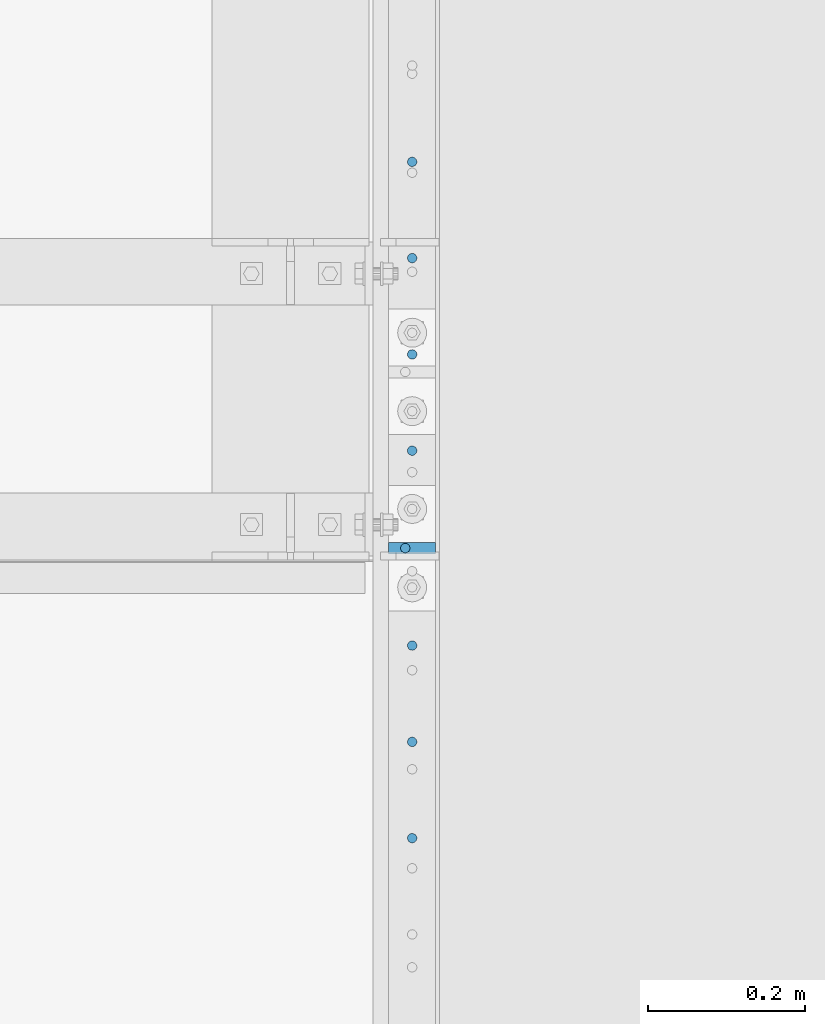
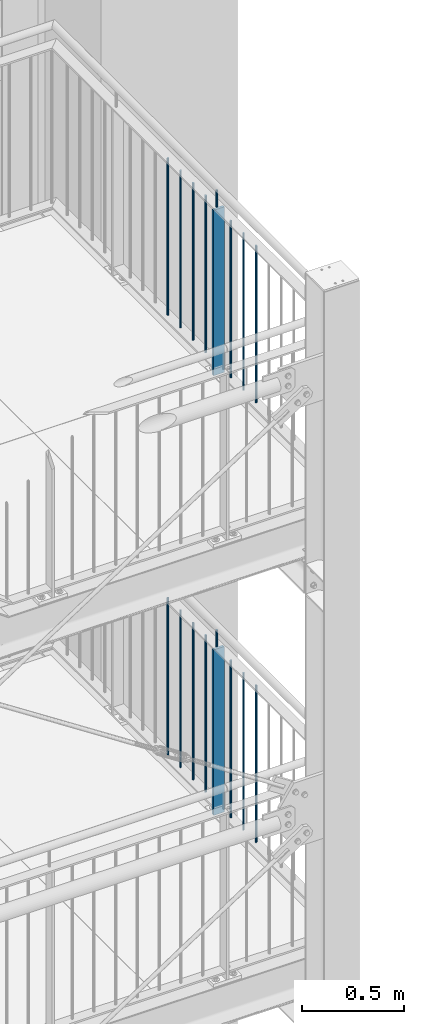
# One storey, part 99 of 825: 18 columns.
"""IFC2X3 building model written with IfcOpenShell, lengths in millimetres."""

from ifc_helpers import new_model, entity, si_unit, converted_unit, frame, origin, origin_with_axes, origin_2d, place, context, project, spatial, rectangle, circle, extrude, clip, halfspace, material, element, save


model = new_model("IFC2X3")

# Units and contexts
model_context = context("Model", 3, precision=1e-09, world=origin_with_axes())
ifc_project = project(units=[si_unit("LENGTHUNIT", "METRE", prefix="MILLI"), si_unit("AREAUNIT", "SQUARE_METRE"), si_unit("VOLUMEUNIT", "CUBIC_METRE"), converted_unit("PLANEANGLEUNIT", "DEGREE", entity("IfcPlaneAngleMeasure", 0.01745329), si_unit("PLANEANGLEUNIT", "RADIAN"), dimensions=[0, 0, 0, 0, 0, 0, 0])], contexts=[model_context])

# Site, building, storey
site_placement = place(None, origin_with_axes())
site = spatial("IfcSite", under=ifc_project, at=site_placement, Name="Cnopf'sche Kinderklinik", CompositionType="ELEMENT")
building_placement = place(site_placement, origin_with_axes())
building = spatial("IfcBuilding", under=site, at=building_placement, Name="Struktur 1", CompositionType="ELEMENT")
storey_placement = place(building_placement, origin_with_axes())
storey = spatial("IfcBuildingStorey", under=building, at=storey_placement, Name="Default Storey", CompositionType="ELEMENT", Elevation=0.0)

# Columns
ifc_material = material(Name="S235JR")
column_1_placement = place(None, frame((9021.713402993, 5751.73611476, 14936.223292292), z_axis=(0.0, 0.0, 1.0), x_axis=(0.0, -1.0, 0.0)))
element("IfcColumn", 1, at=column_1_placement, inside=storey, material=ifc_material, Name="Railing_Post_Landing#6", ObjectType="Railing_Post_Landing#6", context=model_context, shape_type="Clipping", body=[
    clip(clip(extrude(rectangle(XDim=15.0, YDim=60.0, at=origin_2d()), origin(), (0.0, 0.0, -1.0), 1070.646584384), halfspace(frame((5751.73611476, -9021.713402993, -1019.722292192), z_axis=(0.0, 0.0, 1.0), x_axis=(0.0, 1.0, 0.0)), True)), halfspace(frame((5751.73611476, -9021.713402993, -30.924292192), z_axis=(0.0, 0.0, -1.0), x_axis=(0.0, -1.0, 0.0)), True)),
])
column_2_placement = place(None, frame((9021.713402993, 6244.236186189, 14918.785281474), z_axis=(0.0, 0.0, 1.0), x_axis=(0.0, -1.0, 0.0)))
element("IfcColumn", 2, at=column_2_placement, inside=storey, material=ifc_material, Name="Railing_Picket_Landing#38", ObjectType="Railing_Picket_Landing#38", context=model_context, shape_type="Clipping", body=[
    clip(clip(extrude(circle(Radius=6.0, at=origin_2d()), origin(), (0.0, 0.0, -1.0), 965.770562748), halfspace(frame((6244.236186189, -9021.713402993, -13.486281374), z_axis=(0.0, 0.0, -1.0), x_axis=(0.0, -1.0, 0.0)), True)), halfspace(frame((6244.236186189, -9021.713402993, -952.284281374), z_axis=(0.0, 0.0, 1.0), x_axis=(0.0, 1.0, 0.0)), True)),
])
column_3_placement = place(None, frame((9021.713402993, 6121.48616238, 14918.785281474), z_axis=(0.0, 0.0, 1.0), x_axis=(0.0, -1.0, 0.0)))
element("IfcColumn", 3, at=column_3_placement, inside=storey, material=ifc_material, Name="Railing_Picket_Landing#39", ObjectType="Railing_Picket_Landing#39", context=model_context, shape_type="Clipping", body=[
    clip(clip(extrude(circle(Radius=6.0, at=origin_2d()), origin(), (0.0, 0.0, -1.0), 965.770562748), halfspace(frame((6121.48616238, -9021.713402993, -13.486281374), z_axis=(0.0, 0.0, -1.0), x_axis=(0.0, -1.0, 0.0)), True)), halfspace(frame((6121.48616238, -9021.713402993, -952.284281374), z_axis=(0.0, 0.0, 1.0), x_axis=(0.0, 1.0, 0.0)), True)),
])
column_4_placement = place(None, frame((9021.713402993, 5998.73613857, 14918.785281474), z_axis=(0.0, 0.0, 1.0), x_axis=(0.0, -1.0, 0.0)))
element("IfcColumn", 4, at=column_4_placement, inside=storey, material=ifc_material, Name="Railing_Picket_Landing#40", ObjectType="Railing_Picket_Landing#40", context=model_context, shape_type="Clipping", body=[
    clip(clip(extrude(circle(Radius=6.0, at=origin_2d()), origin(), (0.0, 0.0, -1.0), 965.770562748), halfspace(frame((5998.73613857, -9021.713402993, -13.486281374), z_axis=(0.0, 0.0, -1.0), x_axis=(0.0, -1.0, 0.0)), True)), halfspace(frame((5998.73613857, -9021.713402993, -952.284281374), z_axis=(0.0, 0.0, 1.0), x_axis=(0.0, 1.0, 0.0)), True)),
])
column_5_placement = place(None, frame((9021.713402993, 5875.98611476, 14918.785281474), z_axis=(0.0, 0.0, 1.0), x_axis=(0.0, -1.0, 0.0)))
element("IfcColumn", 5, at=column_5_placement, inside=storey, material=ifc_material, Name="Railing_Picket_Landing#41", ObjectType="Railing_Picket_Landing#41", context=model_context, shape_type="Clipping", body=[
    clip(clip(extrude(circle(Radius=6.0, at=origin_2d()), origin(), (0.0, 0.0, -1.0), 965.770562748), halfspace(frame((5875.98611476, -9021.713402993, -13.486281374), z_axis=(0.0, 0.0, -1.0), x_axis=(0.0, -1.0, 0.0)), True)), halfspace(frame((5875.98611476, -9021.713402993, -952.284281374), z_axis=(0.0, 0.0, 1.0), x_axis=(0.0, 1.0, 0.0)), True)),
])
column_6_placement = place(None, frame((9021.713402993, 5627.48611476, 14918.785281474), z_axis=(0.0, 0.0, 1.0), x_axis=(0.0, -1.0, 0.0)))
element("IfcColumn", 6, at=column_6_placement, inside=storey, material=ifc_material, Name="Railing_Picket_Landing#42", ObjectType="Railing_Picket_Landing#42", context=model_context, shape_type="Clipping", body=[
    clip(clip(extrude(circle(Radius=6.0, at=origin_2d()), origin(), (0.0, 0.0, -1.0), 965.770562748), halfspace(frame((5627.48611476, -9021.713402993, -13.486281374), z_axis=(0.0, 0.0, -1.0), x_axis=(0.0, -1.0, 0.0)), True)), halfspace(frame((5627.48611476, -9021.713402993, -952.284281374), z_axis=(0.0, 0.0, 1.0), x_axis=(0.0, 1.0, 0.0)), True)),
])
column_7_placement = place(None, frame((9021.713402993, 5504.736090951, 14918.785281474), z_axis=(0.0, 0.0, 1.0), x_axis=(0.0, -1.0, 0.0)))
element("IfcColumn", 7, at=column_7_placement, inside=storey, material=ifc_material, Name="Railing_Picket_Landing#43", ObjectType="Railing_Picket_Landing#43", context=model_context, shape_type="Clipping", body=[
    clip(clip(extrude(circle(Radius=6.0, at=origin_2d()), origin(), (0.0, 0.0, -1.0), 965.770562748), halfspace(frame((5504.736090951, -9021.713402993, -13.486281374), z_axis=(0.0, 0.0, -1.0), x_axis=(0.0, -1.0, 0.0)), True)), halfspace(frame((5504.736090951, -9021.713402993, -952.284281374), z_axis=(0.0, 0.0, 1.0), x_axis=(0.0, 1.0, 0.0)), True)),
])
column_8_placement = place(None, frame((9021.713402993, 5381.986067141, 14918.785281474), z_axis=(0.0, 0.0, 1.0), x_axis=(0.0, -1.0, 0.0)))
element("IfcColumn", 8, at=column_8_placement, inside=storey, material=ifc_material, Name="Railing_Picket_Landing#44", ObjectType="Railing_Picket_Landing#44", context=model_context, shape_type="Clipping", body=[
    clip(clip(extrude(circle(Radius=6.0, at=origin_2d()), origin(), (0.0, 0.0, -1.0), 965.770562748), halfspace(frame((5381.986067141, -9021.713402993, -13.486281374), z_axis=(0.0, 0.0, -1.0), x_axis=(0.0, -1.0, 0.0)), True)), halfspace(frame((5381.986067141, -9021.713402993, -952.284281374), z_axis=(0.0, 0.0, 1.0), x_axis=(0.0, 1.0, 0.0)), True)),
])
column_9_placement = place(None, frame((9012.913402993, 5751.73611476, 15023.785281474), z_axis=(0.0, 0.0, 1.0), x_axis=(-1.0, 0.0, 0.0)))
element("IfcColumn", 9, at=column_9_placement, inside=storey, material=ifc_material, Name="Bar#6", ObjectType="Bar#6", context=model_context, shape_type="Clipping", body=[
    clip(clip(extrude(circle(Radius=6.0, at=origin_2d()), origin(), (0.0, 0.0, -1.0), 116.970562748), halfspace(frame((9012.913402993, 5751.73611476, -8.486281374), z_axis=(0.0, 0.0, -1.0), x_axis=(1.0, 0.0, 0.0)), True)), halfspace(frame((9012.913402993, 5751.73611476, -108.484281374), z_axis=(0.0, 0.0, 1.0), x_axis=(-1.0, 0.0, 0.0)), True)),
])
column_10_placement = place(None, frame((9021.713402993, 5751.736114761, 17563.723292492), z_axis=(0.0, 0.0, 1.0), x_axis=(0.0, -1.0, 0.0)))
element("IfcColumn", 10, at=column_10_placement, inside=storey, material=ifc_material, Name="Railing_Post_Landing#6", ObjectType="Railing_Post_Landing#6", context=model_context, shape_type="Clipping", body=[
    clip(clip(extrude(rectangle(XDim=15.0, YDim=60.0, at=origin_2d()), origin(), (0.0, 0.0, -1.0), 1070.646584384), halfspace(frame((5751.73611476, -9021.713402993, -1019.722292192), z_axis=(0.0, 0.0, 1.0), x_axis=(0.0, 1.0, 0.0)), True)), halfspace(frame((5751.73611476, -9021.713402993, -30.924292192), z_axis=(0.0, 0.0, -1.0), x_axis=(0.0, -1.0, 0.0)), True)),
])
column_11_placement = place(None, frame((9021.713402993, 6244.236186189, 17546.285281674), z_axis=(0.0, 0.0, 1.0), x_axis=(0.0, -1.0, 0.0)))
element("IfcColumn", 11, at=column_11_placement, inside=storey, material=ifc_material, Name="Railing_Picket_Landing#38", ObjectType="Railing_Picket_Landing#38", context=model_context, shape_type="Clipping", body=[
    clip(clip(extrude(circle(Radius=6.0, at=origin_2d()), origin(), (0.0, 0.0, -1.0), 965.770562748), halfspace(frame((6244.236186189, -9021.713402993, -13.486281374), z_axis=(0.0, 0.0, -1.0), x_axis=(0.0, -1.0, 0.0)), True)), halfspace(frame((6244.236186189, -9021.713402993, -952.284281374), z_axis=(0.0, 0.0, 1.0), x_axis=(0.0, 1.0, 0.0)), True)),
])
column_12_placement = place(None, frame((9021.713402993, 6121.48616238, 17546.285281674), z_axis=(0.0, 0.0, 1.0), x_axis=(0.0, -1.0, 0.0)))
element("IfcColumn", 12, at=column_12_placement, inside=storey, material=ifc_material, Name="Railing_Picket_Landing#39", ObjectType="Railing_Picket_Landing#39", context=model_context, shape_type="Clipping", body=[
    clip(clip(extrude(circle(Radius=6.0, at=origin_2d()), origin(), (0.0, 0.0, -1.0), 965.770562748), halfspace(frame((6121.48616238, -9021.713402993, -13.486281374), z_axis=(0.0, 0.0, -1.0), x_axis=(0.0, -1.0, 0.0)), True)), halfspace(frame((6121.48616238, -9021.713402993, -952.284281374), z_axis=(0.0, 0.0, 1.0), x_axis=(0.0, 1.0, 0.0)), True)),
])
column_13_placement = place(None, frame((9021.713402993, 5998.73613857, 17546.285281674), z_axis=(0.0, 0.0, 1.0), x_axis=(0.0, -1.0, 0.0)))
element("IfcColumn", 13, at=column_13_placement, inside=storey, material=ifc_material, Name="Railing_Picket_Landing#40", ObjectType="Railing_Picket_Landing#40", context=model_context, shape_type="Clipping", body=[
    clip(clip(extrude(circle(Radius=6.0, at=origin_2d()), origin(), (0.0, 0.0, -1.0), 965.770562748), halfspace(frame((5998.73613857, -9021.713402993, -13.486281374), z_axis=(0.0, 0.0, -1.0), x_axis=(0.0, -1.0, 0.0)), True)), halfspace(frame((5998.73613857, -9021.713402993, -952.284281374), z_axis=(0.0, 0.0, 1.0), x_axis=(0.0, 1.0, 0.0)), True)),
])
column_14_placement = place(None, frame((9021.713402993, 5875.986114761, 17546.285281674), z_axis=(0.0, 0.0, 1.0), x_axis=(0.0, -1.0, 0.0)))
element("IfcColumn", 14, at=column_14_placement, inside=storey, material=ifc_material, Name="Railing_Picket_Landing#41", ObjectType="Railing_Picket_Landing#41", context=model_context, shape_type="Clipping", body=[
    clip(clip(extrude(circle(Radius=6.0, at=origin_2d()), origin(), (0.0, 0.0, -1.0), 965.770562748), halfspace(frame((5875.98611476, -9021.713402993, -13.486281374), z_axis=(0.0, 0.0, -1.0), x_axis=(0.0, -1.0, 0.0)), True)), halfspace(frame((5875.98611476, -9021.713402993, -952.284281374), z_axis=(0.0, 0.0, 1.0), x_axis=(0.0, 1.0, 0.0)), True)),
])
column_15_placement = place(None, frame((9021.713402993, 5627.486114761, 17546.285281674), z_axis=(0.0, 0.0, 1.0), x_axis=(0.0, -1.0, 0.0)))
element("IfcColumn", 15, at=column_15_placement, inside=storey, material=ifc_material, Name="Railing_Picket_Landing#42", ObjectType="Railing_Picket_Landing#42", context=model_context, shape_type="Clipping", body=[
    clip(clip(extrude(circle(Radius=6.0, at=origin_2d()), origin(), (0.0, 0.0, -1.0), 965.770562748), halfspace(frame((5627.48611476, -9021.713402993, -13.486281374), z_axis=(0.0, 0.0, -1.0), x_axis=(0.0, -1.0, 0.0)), True)), halfspace(frame((5627.48611476, -9021.713402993, -952.284281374), z_axis=(0.0, 0.0, 1.0), x_axis=(0.0, 1.0, 0.0)), True)),
])
column_16_placement = place(None, frame((9021.713402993, 5504.736090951, 17546.285281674), z_axis=(0.0, 0.0, 1.0), x_axis=(0.0, -1.0, 0.0)))
element("IfcColumn", 16, at=column_16_placement, inside=storey, material=ifc_material, Name="Railing_Picket_Landing#43", ObjectType="Railing_Picket_Landing#43", context=model_context, shape_type="Clipping", body=[
    clip(clip(extrude(circle(Radius=6.0, at=origin_2d()), origin(), (0.0, 0.0, -1.0), 965.770562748), halfspace(frame((5504.736090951, -9021.713402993, -13.486281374), z_axis=(0.0, 0.0, -1.0), x_axis=(0.0, -1.0, 0.0)), True)), halfspace(frame((5504.736090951, -9021.713402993, -952.284281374), z_axis=(0.0, 0.0, 1.0), x_axis=(0.0, 1.0, 0.0)), True)),
])
column_17_placement = place(None, frame((9021.713402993, 5381.986067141, 17546.285281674), z_axis=(0.0, 0.0, 1.0), x_axis=(0.0, -1.0, 0.0)))
element("IfcColumn", 17, at=column_17_placement, inside=storey, material=ifc_material, Name="Railing_Picket_Landing#44", ObjectType="Railing_Picket_Landing#44", context=model_context, shape_type="Clipping", body=[
    clip(clip(extrude(circle(Radius=6.0, at=origin_2d()), origin(), (0.0, 0.0, -1.0), 965.770562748), halfspace(frame((5381.986067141, -9021.713402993, -13.486281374), z_axis=(0.0, 0.0, -1.0), x_axis=(0.0, -1.0, 0.0)), True)), halfspace(frame((5381.986067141, -9021.713402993, -952.284281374), z_axis=(0.0, 0.0, 1.0), x_axis=(0.0, 1.0, 0.0)), True)),
])
column_18_placement = place(None, frame((9012.913402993, 5751.736114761, 17651.285281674), z_axis=(0.0, 0.0, 1.0), x_axis=(-1.0, 0.0, 0.0)))
element("IfcColumn", 18, at=column_18_placement, inside=storey, material=ifc_material, Name="Bar#6", ObjectType="Bar#6", context=model_context, shape_type="Clipping", body=[
    clip(clip(extrude(circle(Radius=6.0, at=origin_2d()), origin(), (0.0, 0.0, -1.0), 116.970562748), halfspace(frame((9012.913402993, 5751.73611476, -8.486281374), z_axis=(0.0, 0.0, -1.0), x_axis=(1.0, 0.0, 0.0)), True)), halfspace(frame((9012.913402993, 5751.73611476, -108.484281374), z_axis=(0.0, 0.0, 1.0), x_axis=(-1.0, 0.0, 0.0)), True)),
])

save(model, "model.ifc")
